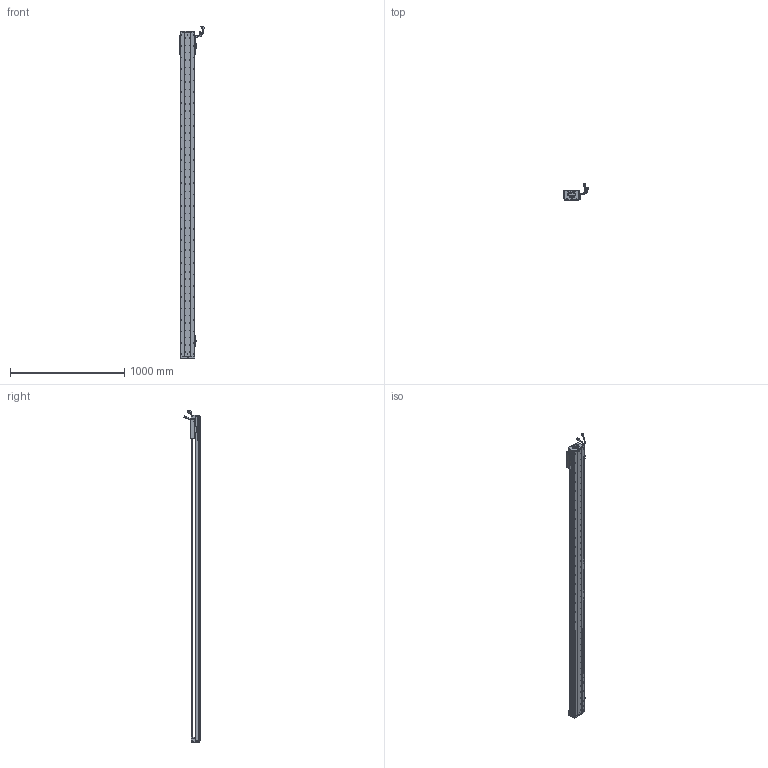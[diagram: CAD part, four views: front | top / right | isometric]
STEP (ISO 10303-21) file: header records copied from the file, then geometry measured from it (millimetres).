
FILE_DESCRIPTION (( 'STEP AP203' ), '1' );
FILE_NAME ('Z2-RY120D-1-L500-B-K.SLDASM_2600.step', '2021-05-17T05:39:40', ( '盈信电脑' ), ( '东莞市道滘镇水果街19号' ), 'SwSTEP 2.0', 'SolidWorks 2016', '' );
FILE_SCHEMA (( 'CONFIG_CONTROL_DESIGN' ));
Length unit declared in the file: millimetre
Products named in the file (37): SCALE; LABEL; 080黍杅芛假蚾釱21遴; PBU_SHEET; 140雄赽晤鎢ん堤盄; Z2-RY120-500-倰第菁釱_2600; SCREW-M1.7-1; SHIELDPLATE; Z-120詩湍傷裔啣; LABEL-Part-1; SEAL; Z2-RY120-L500詩湍100mm遵_2600; SCREW-M1.7; SEAL-Part-1; HARNESS; HARNESS-Part-1; COVER; PSLH080_PSLF2; Z-RY120D詩湍奻揤裔; 覜茼ん672; HOLDER0; HARNESS-Part-2; RY100FB-遵嫖萇覜茼え; SCREW-M1.6-1; SCREW-M1.6-2; 榋妏寠巭燃_暯_M2_2; Z-RY120D詩湍狟揤裔; 672嫖萇羲壽假蚾釱; SCALE-Part-1; 140蚥薯蝶輸; COVER-Part-1; Z2-RY120D-1-L500-B-K.SLDASM_2600; Z2-RY120铝滑块（21款）; SCALE-Part-2; SCREW-M1.6; 120-Z-臏賑輸盄裔(21遴); SCREW-M1.6-3
Assembly tree (43 placements, depth 4):
  Z2-RY120D-1-L500-B-K.SLDASM_2600
    Z2-RY120-500-倰第菁釱_2600
    覜茼ん672  x3
    672嫖萇羲壽假蚾釱  x2
    Z2-RY120铝滑块（21款）
    PSLH080_PSLF2
      SCALE
        SCALE-Part-1
        SCALE-Part-2
      HARNESS
        HARNESS-Part-1
        HARNESS-Part-2
      LABEL
        LABEL-Part-1
      COVER
        COVER-Part-1
      SEAL
        SEAL-Part-1
      榋妏寠巭燃_暯_M2_2
      SHIELDPLATE
      SCREW-M1.7
      SCREW-M1.7-1
      PBU_SHEET
      SCREW-M1.6
      SCREW-M1.6-1
      SCREW-M1.6-2
      SCREW-M1.6-3
      HOLDER0
    080黍杅芛假蚾釱21遴
    120-Z-臏賑輸盄裔(21遴)
    140雄赽晤鎢ん堤盄
    140蚥薯蝶輸  x2
    RY100FB-遵嫖萇覜茼え
    Z-120詩湍傷裔啣  x2
    Z-RY120D詩湍奻揤裔  x2
    Z-RY120D詩湍狟揤裔  x2
    Z2-RY120-L500詩湍100mm遵_2600
Bounding box: 222.83 x 140.94 x 2908.99 mm (x, y, z)
Volume: 6590394.1 mm3; surface area: 2340146.1 mm2
Topology: 38 solids, 38 shells, 3825 faces, 10972 edges, 6927 vertices
Faces by surface type: cylinder 2038, plane 1271, cone 394, torus 69, bspline 53
Entity records: 130332 total; most frequent: CARTESIAN_POINT 40650, ORIENTED_EDGE 18684, DIRECTION 16944, EDGE_CURVE 9342, AXIS2_PLACEMENT_3D 6268, VERTEX_POINT 6047, LINE 4408, VECTOR 4408
